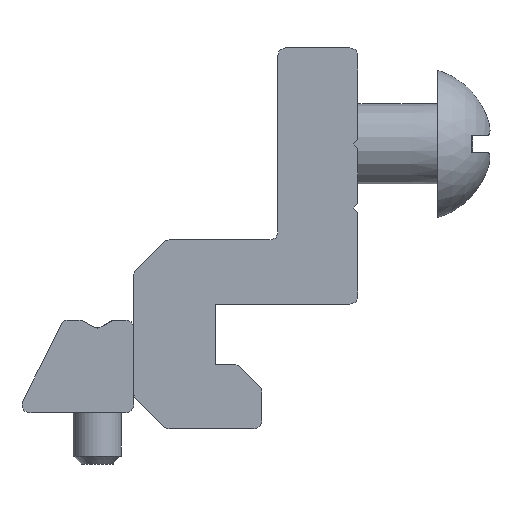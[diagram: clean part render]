
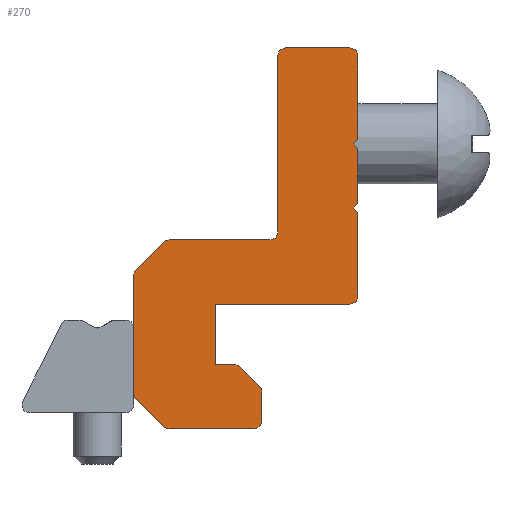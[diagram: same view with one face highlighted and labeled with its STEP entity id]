
A CAD part, left-side view. The second image highlights one B-rep face of the part: STEP entity #270.
In plain terms, the highlighted planar face has unit normal (-1, 0, 0) as drawn and (0, 0, 1) by its records, which use the part's own axes.
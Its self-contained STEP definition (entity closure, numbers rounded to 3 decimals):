
#270=ADVANCED_FACE('',(#550),#551,.T.);
#550=FACE_OUTER_BOUND('',#881,.T.);
#551=PLANE('',#882);
#881=EDGE_LOOP('',(#1324,#1325,#1326,#1327,#1328,#1329,#1330,#1331,#1332,#1333,#1334,#1335,#1336,#1337,#1338,#1339,#1340,#1341,#1342,#1343,#1344,#1345,#1346,#1347,#1348,#1349,#1350,#1351,#1352,#1353));
#882=AXIS2_PLACEMENT_3D('',#1354,#1355,#1356);
#1324=ORIENTED_EDGE('',*,*,#2120,.T.);
#1325=ORIENTED_EDGE('',*,*,#2124,.T.);
#1326=ORIENTED_EDGE('',*,*,#2128,.T.);
#1327=ORIENTED_EDGE('',*,*,#2132,.T.);
#1328=ORIENTED_EDGE('',*,*,#2136,.T.);
#1329=ORIENTED_EDGE('',*,*,#2140,.T.);
#1330=ORIENTED_EDGE('',*,*,#2144,.T.);
#1331=ORIENTED_EDGE('',*,*,#2148,.T.);
#1332=ORIENTED_EDGE('',*,*,#2152,.T.);
#1333=ORIENTED_EDGE('',*,*,#2156,.T.);
#1334=ORIENTED_EDGE('',*,*,#2158,.T.);
#1335=ORIENTED_EDGE('',*,*,#2159,.T.);
#1336=ORIENTED_EDGE('',*,*,#2160,.T.);
#1337=ORIENTED_EDGE('',*,*,#2161,.T.);
#1338=ORIENTED_EDGE('',*,*,#2162,.T.);
#1339=ORIENTED_EDGE('',*,*,#2163,.T.);
#1340=ORIENTED_EDGE('',*,*,#2164,.T.);
#1341=ORIENTED_EDGE('',*,*,#2165,.T.);
#1342=ORIENTED_EDGE('',*,*,#2068,.T.);
#1343=ORIENTED_EDGE('',*,*,#2076,.T.);
#1344=ORIENTED_EDGE('',*,*,#2080,.T.);
#1345=ORIENTED_EDGE('',*,*,#2084,.T.);
#1346=ORIENTED_EDGE('',*,*,#2088,.T.);
#1347=ORIENTED_EDGE('',*,*,#2092,.T.);
#1348=ORIENTED_EDGE('',*,*,#2096,.T.);
#1349=ORIENTED_EDGE('',*,*,#2100,.T.);
#1350=ORIENTED_EDGE('',*,*,#2104,.T.);
#1351=ORIENTED_EDGE('',*,*,#2108,.T.);
#1352=ORIENTED_EDGE('',*,*,#2112,.T.);
#1353=ORIENTED_EDGE('',*,*,#2116,.T.);
#1354=CARTESIAN_POINT('',(0.5,2.207,20.0));
#1355=DIRECTION('',(0.0,0.0,1.0));
#1356=DIRECTION('',(1.0,0.0,0.0));
#2068=EDGE_CURVE('',#2440,#2438,#2441,.T.);
#2076=EDGE_CURVE('',#2438,#2450,#2452,.T.);
#2080=EDGE_CURVE('',#2450,#2456,#2458,.T.);
#2084=EDGE_CURVE('',#2456,#2462,#2464,.T.);
#2088=EDGE_CURVE('',#2462,#2468,#2470,.T.);
#2092=EDGE_CURVE('',#2468,#2474,#2476,.T.);
#2096=EDGE_CURVE('',#2474,#2480,#2482,.T.);
#2100=EDGE_CURVE('',#2480,#2486,#2488,.T.);
#2104=EDGE_CURVE('',#2486,#2492,#2494,.T.);
#2108=EDGE_CURVE('',#2492,#2498,#2500,.T.);
#2112=EDGE_CURVE('',#2498,#2504,#2506,.T.);
#2116=EDGE_CURVE('',#2504,#2510,#2512,.T.);
#2120=EDGE_CURVE('',#2510,#2516,#2518,.T.);
#2124=EDGE_CURVE('',#2516,#2522,#2524,.T.);
#2128=EDGE_CURVE('',#2522,#2528,#2530,.T.);
#2132=EDGE_CURVE('',#2528,#2534,#2536,.T.);
#2136=EDGE_CURVE('',#2534,#2540,#2542,.T.);
#2140=EDGE_CURVE('',#2540,#2546,#2548,.T.);
#2144=EDGE_CURVE('',#2546,#2552,#2554,.T.);
#2148=EDGE_CURVE('',#2552,#2558,#2560,.T.);
#2152=EDGE_CURVE('',#2558,#2564,#2566,.T.);
#2156=EDGE_CURVE('',#2564,#2570,#2572,.T.);
#2158=EDGE_CURVE('',#2570,#2574,#2575,.T.);
#2159=EDGE_CURVE('',#2574,#2576,#2577,.T.);
#2160=EDGE_CURVE('',#2576,#2578,#2579,.T.);
#2161=EDGE_CURVE('',#2578,#2580,#2581,.T.);
#2162=EDGE_CURVE('',#2580,#2582,#2583,.T.);
#2163=EDGE_CURVE('',#2582,#2584,#2585,.T.);
#2164=EDGE_CURVE('',#2584,#2586,#2587,.T.);
#2165=EDGE_CURVE('',#2586,#2440,#2588,.T.);
#2438=VERTEX_POINT('',#2977);
#2440=VERTEX_POINT('',#2980);
#2441=LINE('',#2981,#2982);
#2450=VERTEX_POINT('',#2995);
#2452=LINE('',#2998,#2999);
#2456=VERTEX_POINT('',#3004);
#2458=LINE('',#3007,#3008);
#2462=VERTEX_POINT('',#3012);
#2464=CIRCLE('',#3015,0.5);
#2468=VERTEX_POINT('',#3020);
#2470=LINE('',#3023,#3024);
#2474=VERTEX_POINT('',#3028);
#2476=CIRCLE('',#3031,0.5);
#2480=VERTEX_POINT('',#3036);
#2482=LINE('',#3039,#3040);
#2486=VERTEX_POINT('',#3044);
#2488=CIRCLE('',#3047,0.5);
#2492=VERTEX_POINT('',#3052);
#2494=LINE('',#3055,#3056);
#2498=VERTEX_POINT('',#3060);
#2500=CIRCLE('',#3063,0.5);
#2504=VERTEX_POINT('',#3068);
#2506=LINE('',#3071,#3072);
#2510=VERTEX_POINT('',#3076);
#2512=CIRCLE('',#3079,0.5);
#2516=VERTEX_POINT('',#3084);
#2518=LINE('',#3087,#3088);
#2522=VERTEX_POINT('',#3092);
#2524=CIRCLE('',#3095,0.5);
#2528=VERTEX_POINT('',#3100);
#2530=LINE('',#3103,#3104);
#2534=VERTEX_POINT('',#3108);
#2536=CIRCLE('',#3111,0.5);
#2540=VERTEX_POINT('',#3116);
#2542=LINE('',#3119,#3120);
#2546=VERTEX_POINT('',#3124);
#2548=CIRCLE('',#3127,0.5);
#2552=VERTEX_POINT('',#3132);
#2554=LINE('',#3135,#3136);
#2558=VERTEX_POINT('',#3140);
#2560=CIRCLE('',#3143,0.5);
#2564=VERTEX_POINT('',#3148);
#2566=LINE('',#3151,#3152);
#2570=VERTEX_POINT('',#3156);
#2572=CIRCLE('',#3159,0.5);
#2574=VERTEX_POINT('',#3161);
#2575=LINE('',#3162,#3163);
#2576=VERTEX_POINT('',#3164);
#2577=LINE('',#3165,#3166);
#2578=VERTEX_POINT('',#3167);
#2579=LINE('',#3168,#3169);
#2580=VERTEX_POINT('',#3170);
#2581=CIRCLE('',#3171,0.5);
#2582=VERTEX_POINT('',#3172);
#2583=LINE('',#3173,#3174);
#2584=VERTEX_POINT('',#3175);
#2585=LINE('',#3176,#3177);
#2586=VERTEX_POINT('',#3178);
#2587=LINE('',#3179,#3180);
#2588=LINE('',#3181,#3182);
#2977=CARTESIAN_POINT('',(13.7,17.8,20.0));
#2980=CARTESIAN_POINT('',(14.,17.5,20.0));
#2981=CARTESIAN_POINT('',(14.,17.5,20.0));
#2982=VECTOR('',#3755,1.0);
#2995=CARTESIAN_POINT('',(14.,18.1,20.0));
#2998=CARTESIAN_POINT('',(13.7,17.8,20.0));
#2999=VECTOR('',#3761,1.0);
#3004=CARTESIAN_POINT('',(14.,23.3,20.0));
#3007=CARTESIAN_POINT('',(14.,18.1,20.0));
#3008=VECTOR('',#3764,1.0);
#3012=CARTESIAN_POINT('',(13.5,23.8,20.0));
#3015=AXIS2_PLACEMENT_3D('',#3769,#3770,#3771);
#3020=CARTESIAN_POINT('',(9.5,23.8,20.0));
#3023=CARTESIAN_POINT('',(13.5,23.8,20.0));
#3024=VECTOR('',#3774,1.0);
#3028=CARTESIAN_POINT('',(9.,23.3,20.0));
#3031=AXIS2_PLACEMENT_3D('',#3779,#3780,#3781);
#3036=CARTESIAN_POINT('',(9.,12.3,20.0));
#3039=CARTESIAN_POINT('',(9.,23.3,20.0));
#3040=VECTOR('',#3784,1.0);
#3044=CARTESIAN_POINT('',(8.5,11.8,20.0));
#3047=AXIS2_PLACEMENT_3D('',#3789,#3790,#3791);
#3052=CARTESIAN_POINT('',(2.207,11.8,20.0));
#3055=CARTESIAN_POINT('',(8.5,11.8,20.0));
#3056=VECTOR('',#3794,1.0);
#3060=CARTESIAN_POINT('',(1.854,11.654,20.0));
#3063=AXIS2_PLACEMENT_3D('',#3799,#3800,#3801);
#3068=CARTESIAN_POINT('',(0.146,9.946,20.0));
#3071=CARTESIAN_POINT('',(1.854,11.654,20.0));
#3072=VECTOR('',#3804,1.0);
#3076=CARTESIAN_POINT('',(0.0,9.593,20.0));
#3079=AXIS2_PLACEMENT_3D('',#3809,#3810,#3811);
#3084=CARTESIAN_POINT('',(0.0,2.207,20.0));
#3087=CARTESIAN_POINT('',(0.0,9.593,20.0));
#3088=VECTOR('',#3814,1.0);
#3092=CARTESIAN_POINT('',(0.146,1.854,20.0));
#3095=AXIS2_PLACEMENT_3D('',#3819,#3820,#3821);
#3100=CARTESIAN_POINT('',(1.854,0.146,20.0));
#3103=CARTESIAN_POINT('',(0.146,1.854,20.0));
#3104=VECTOR('',#3824,1.0);
#3108=CARTESIAN_POINT('',(2.207,0.,20.0));
#3111=AXIS2_PLACEMENT_3D('',#3829,#3830,#3831);
#3116=CARTESIAN_POINT('',(7.5,0.,20.0));
#3119=CARTESIAN_POINT('',(2.207,0.,20.0));
#3120=VECTOR('',#3834,1.0);
#3124=CARTESIAN_POINT('',(8.,0.5,20.0));
#3127=AXIS2_PLACEMENT_3D('',#3839,#3840,#3841);
#3132=CARTESIAN_POINT('',(8.,2.293,20.0));
#3135=CARTESIAN_POINT('',(8.,0.5,20.0));
#3136=VECTOR('',#3844,1.0);
#3140=CARTESIAN_POINT('',(7.854,2.646,20.0));
#3143=AXIS2_PLACEMENT_3D('',#3849,#3850,#3851);
#3148=CARTESIAN_POINT('',(6.646,3.854,20.0));
#3151=CARTESIAN_POINT('',(7.854,2.646,20.0));
#3152=VECTOR('',#3854,1.0);
#3156=CARTESIAN_POINT('',(6.293,4.,20.0));
#3159=AXIS2_PLACEMENT_3D('',#3859,#3860,#3861);
#3161=CARTESIAN_POINT('',(5.1,4.,20.0));
#3162=CARTESIAN_POINT('',(6.293,4.,20.0));
#3163=VECTOR('',#3862,1.0);
#3164=CARTESIAN_POINT('',(5.1,7.8,20.0));
#3165=CARTESIAN_POINT('',(5.1,4.,20.0));
#3166=VECTOR('',#3863,1.0);
#3167=CARTESIAN_POINT('',(13.5,7.8,20.0));
#3168=CARTESIAN_POINT('',(5.1,7.8,20.0));
#3169=VECTOR('',#3864,1.0);
#3170=CARTESIAN_POINT('',(14.0,8.3,20.0));
#3171=AXIS2_PLACEMENT_3D('',#3865,#3866,#3867);
#3172=CARTESIAN_POINT('',(14.,13.495,20.0));
#3173=CARTESIAN_POINT('',(14.0,8.3,20.0));
#3174=VECTOR('',#3868,1.0);
#3175=CARTESIAN_POINT('',(13.7,13.795,20.0));
#3176=CARTESIAN_POINT('',(14.,13.495,20.0));
#3177=VECTOR('',#3869,1.0);
#3178=CARTESIAN_POINT('',(14.,14.095,20.0));
#3179=CARTESIAN_POINT('',(13.7,13.795,20.0));
#3180=VECTOR('',#3870,1.0);
#3181=CARTESIAN_POINT('',(14.,14.095,20.0));
#3182=VECTOR('',#3871,1.0);
#3755=DIRECTION('',(-0.707,0.707,0.0));
#3761=DIRECTION('',(0.707,0.707,0.0));
#3764=DIRECTION('',(0.0,1.0,0.0));
#3769=CARTESIAN_POINT('',(13.5,23.3,20.0));
#3770=DIRECTION('',(0.0,0.0,1.0));
#3771=DIRECTION('',(1.0,0.0,0.0));
#3774=DIRECTION('',(-1.0,0.,0.0));
#3779=CARTESIAN_POINT('',(9.5,23.3,20.0));
#3780=DIRECTION('',(0.0,0.0,1.0));
#3781=DIRECTION('',(1.0,0.0,0.0));
#3784=DIRECTION('',(0.0,-1.0,0.0));
#3789=CARTESIAN_POINT('',(8.5,12.3,20.0));
#3790=DIRECTION('',(0.0,0.0,-1.0));
#3791=DIRECTION('',(-1.0,0.0,0.0));
#3794=DIRECTION('',(-1.0,0.0,0.0));
#3799=CARTESIAN_POINT('',(2.207,11.3,20.0));
#3800=DIRECTION('',(0.0,0.0,1.0));
#3801=DIRECTION('',(1.0,0.0,0.0));
#3804=DIRECTION('',(-0.707,-0.707,0.0));
#3809=CARTESIAN_POINT('',(0.5,9.593,20.0));
#3810=DIRECTION('',(0.0,0.0,1.0));
#3811=DIRECTION('',(1.0,0.0,0.0));
#3814=DIRECTION('',(0.0,-1.0,0.0));
#3819=CARTESIAN_POINT('',(0.5,2.207,20.0));
#3820=DIRECTION('',(0.0,0.0,1.0));
#3821=DIRECTION('',(1.0,0.0,0.0));
#3824=DIRECTION('',(0.707,-0.707,0.0));
#3829=CARTESIAN_POINT('',(2.207,0.5,20.0));
#3830=DIRECTION('',(0.0,0.0,1.0));
#3831=DIRECTION('',(1.0,0.0,0.0));
#3834=DIRECTION('',(1.0,0.0,0.0));
#3839=CARTESIAN_POINT('',(7.5,0.5,20.0));
#3840=DIRECTION('',(0.0,0.0,1.0));
#3841=DIRECTION('',(1.0,0.0,0.0));
#3844=DIRECTION('',(0.0,1.0,0.0));
#3849=CARTESIAN_POINT('',(7.5,2.293,20.0));
#3850=DIRECTION('',(0.0,0.0,1.0));
#3851=DIRECTION('',(1.0,0.0,0.0));
#3854=DIRECTION('',(-0.707,0.707,0.0));
#3859=CARTESIAN_POINT('',(6.293,3.5,20.0));
#3860=DIRECTION('',(0.0,0.0,1.0));
#3861=DIRECTION('',(1.0,0.0,0.0));
#3862=DIRECTION('',(-1.0,0.0,0.0));
#3863=DIRECTION('',(0.0,1.0,0.0));
#3864=DIRECTION('',(1.0,0.,0.0));
#3865=CARTESIAN_POINT('',(13.5,8.3,20.0));
#3866=DIRECTION('',(0.0,0.0,1.0));
#3867=DIRECTION('',(1.0,0.0,0.0));
#3868=DIRECTION('',(0.,1.0,0.0));
#3869=DIRECTION('',(-0.707,0.707,0.0));
#3870=DIRECTION('',(0.707,0.707,0.0));
#3871=DIRECTION('',(0.0,1.0,0.0));
